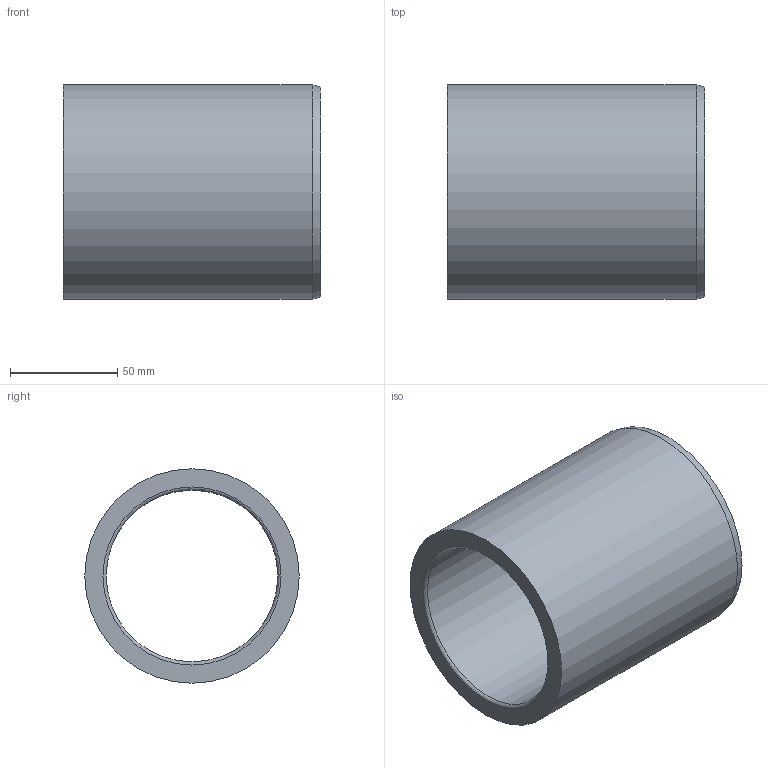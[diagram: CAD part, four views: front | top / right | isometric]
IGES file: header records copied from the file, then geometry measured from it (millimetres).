
Global section: file name: BG04.80100120.ipt; native system: Autodesk Inventor 2021; preprocessor: unknown; author: SM; date: 20211217.163900; units: millimetre
Bounding box: 120 x 100 x 100 mm (x, y, z)
Volume: 338378.6 mm3; surface area: 72888.9 mm2
Topology: 1 solids, 1 shells, 7 faces, 18 edges, 13 vertices
Faces by surface type: revolution 3, plane 2, cylinder 1, cone 1
Full cylindrical faces by diameter (mm): 100 x1
